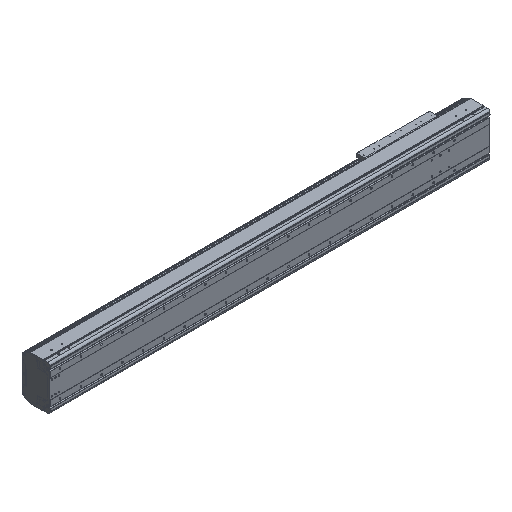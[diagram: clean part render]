
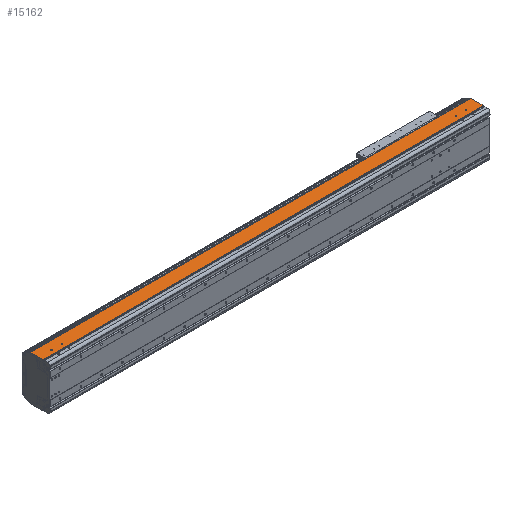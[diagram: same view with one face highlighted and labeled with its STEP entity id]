
A CAD part, isometric view. The second image highlights one B-rep face of the part: STEP entity #15162.
In plain terms, the highlighted planar face has unit normal (0, 0, 1).
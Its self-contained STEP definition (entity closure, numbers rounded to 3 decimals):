
#1832=DIRECTION('',(0.,-1.,0.));
#1833=VECTOR('',#1832,2.55);
#1834=CARTESIAN_POINT('',(0.,34.65,107.));
#1835=LINE('',#1834,#1833);
#2315=DIRECTION('',(1.,0.,0.));
#2316=VECTOR('',#2315,2.);
#2317=CARTESIAN_POINT('',(-2121.,34.65,107.));
#2318=LINE('',#2317,#2316);
#2319=CARTESIAN_POINT('',(-59.5,54.,107.));
#2320=DIRECTION('',(0.,0.,-1.));
#2321=DIRECTION('',(1.,0.,0.));
#2322=AXIS2_PLACEMENT_3D('',#2319,#2320,#2321);
#2324=CARTESIAN_POINT('',(-59.5,54.,107.));
#2325=DIRECTION('',(0.,0.,-1.));
#2326=DIRECTION('',(-1.,0.,0.));
#2327=AXIS2_PLACEMENT_3D('',#2324,#2325,#2326);
#2329=CARTESIAN_POINT('',(-109.5,54.,107.));
#2330=DIRECTION('',(0.,0.,-1.));
#2331=DIRECTION('',(1.,0.,0.));
#2332=AXIS2_PLACEMENT_3D('',#2329,#2330,#2331);
#2334=CARTESIAN_POINT('',(-109.5,54.,107.));
#2335=DIRECTION('',(0.,0.,-1.));
#2336=DIRECTION('',(-1.,0.,0.));
#2337=AXIS2_PLACEMENT_3D('',#2334,#2335,#2336);
#2339=CARTESIAN_POINT('',(-2059.5,54.,107.));
#2340=DIRECTION('',(0.,0.,-1.));
#2341=DIRECTION('',(1.,0.,0.));
#2342=AXIS2_PLACEMENT_3D('',#2339,#2340,#2341);
#2344=CARTESIAN_POINT('',(-2059.5,54.,107.));
#2345=DIRECTION('',(0.,0.,-1.));
#2346=DIRECTION('',(-1.,0.,0.));
#2347=AXIS2_PLACEMENT_3D('',#2344,#2345,#2346);
#2349=CARTESIAN_POINT('',(-2009.5,54.,107.));
#2350=DIRECTION('',(0.,0.,-1.));
#2351=DIRECTION('',(1.,0.,0.));
#2352=AXIS2_PLACEMENT_3D('',#2349,#2350,#2351);
#2354=CARTESIAN_POINT('',(-2009.5,54.,107.));
#2355=DIRECTION('',(0.,0.,-1.));
#2356=DIRECTION('',(-1.,0.,0.));
#2357=AXIS2_PLACEMENT_3D('',#2354,#2355,#2356);
#2359=DIRECTION('',(0.,-1.,0.));
#2360=VECTOR('',#2359,2.55);
#2361=CARTESIAN_POINT('',(-2119.,34.65,107.));
#2362=LINE('',#2361,#2360);
#2363=DIRECTION('',(0.,-1.,0.));
#2364=VECTOR('',#2363,58.85);
#2365=CARTESIAN_POINT('',(-2121.,93.5,107.));
#2366=LINE('',#2365,#2364);
#2367=DIRECTION('',(0.,1.,0.));
#2368=VECTOR('',#2367,58.85);
#2369=CARTESIAN_POINT('',(2.,34.65,107.));
#2370=LINE('',#2369,#2368);
#2371=DIRECTION('',(1.,0.,0.));
#2372=VECTOR('',#2371,2119.);
#2373=CARTESIAN_POINT('',(-2119.,32.1,107.));
#2374=LINE('',#2373,#2372);
#2479=DIRECTION('',(-1.,0.,0.));
#2480=VECTOR('',#2479,2123.);
#2481=CARTESIAN_POINT('',(2.,93.5,107.));
#2482=LINE('',#2481,#2480);
#8333=DIRECTION('',(1.,0.,0.));
#8334=VECTOR('',#8333,2.);
#8335=CARTESIAN_POINT('',(0.,34.65,107.));
#8336=LINE('',#8335,#8334);
#9489=CARTESIAN_POINT('',(-2121.,34.65,107.));
#9490=VERTEX_POINT('',#9489);
#9491=CARTESIAN_POINT('',(-2121.,93.5,107.));
#9492=VERTEX_POINT('',#9491);
#9721=CARTESIAN_POINT('',(-2119.,32.1,107.));
#9722=VERTEX_POINT('',#9721);
#10077=CARTESIAN_POINT('',(0.,32.1,107.));
#10078=VERTEX_POINT('',#10077);
#10079=CARTESIAN_POINT('',(-57.,54.,107.));
#10080=CARTESIAN_POINT('',(-62.,54.,107.));
#10081=VERTEX_POINT('',#10079);
#10082=VERTEX_POINT('',#10080);
#10083=CARTESIAN_POINT('',(-107.,54.,107.));
#10084=CARTESIAN_POINT('',(-112.,54.,107.));
#10085=VERTEX_POINT('',#10083);
#10086=VERTEX_POINT('',#10084);
#10087=CARTESIAN_POINT('',(-2057.,54.,107.));
#10088=CARTESIAN_POINT('',(-2062.,54.,107.));
#10089=VERTEX_POINT('',#10087);
#10090=VERTEX_POINT('',#10088);
#10091=CARTESIAN_POINT('',(-2007.,54.,107.));
#10092=CARTESIAN_POINT('',(-2012.,54.,107.));
#10093=VERTEX_POINT('',#10091);
#10094=VERTEX_POINT('',#10092);
#10986=CARTESIAN_POINT('',(2.,34.65,107.));
#10987=VERTEX_POINT('',#10986);
#10988=CARTESIAN_POINT('',(2.,93.5,107.));
#10989=VERTEX_POINT('',#10988);
#11440=CARTESIAN_POINT('',(0.,34.65,107.));
#11441=VERTEX_POINT('',#11440);
#11520=CARTESIAN_POINT('',(-2119.,34.65,107.));
#11521=VERTEX_POINT('',#11520);
#15120=CARTESIAN_POINT('',(-1059.5,62.8,107.));
#15121=DIRECTION('',(0.,0.,1.));
#15122=DIRECTION('',(0.,-1.,0.));
#15123=AXIS2_PLACEMENT_3D('',#15120,#15121,#15122);
#15124=PLANE('',#15123);
#15125=ORIENTED_EDGE('',*,*,#12606,.F.);
#15126=ORIENTED_EDGE('',*,*,#15115,.F.);
#15127=ORIENTED_EDGE('',*,*,#13235,.F.);
#15129=ORIENTED_EDGE('',*,*,#15128,.F.);
#15130=ORIENTED_EDGE('',*,*,#12343,.F.);
#15132=ORIENTED_EDGE('',*,*,#15131,.F.);
#15133=ORIENTED_EDGE('',*,*,#14723,.T.);
#15135=ORIENTED_EDGE('',*,*,#15134,.F.);
#15136=EDGE_LOOP('',(#15125,#15126,#15127,#15129,#15130,#15132,#15133,#15135));
#15137=FACE_OUTER_BOUND('',#15136,.F.);
#15139=ORIENTED_EDGE('',*,*,#15138,.F.);
#15141=ORIENTED_EDGE('',*,*,#15140,.F.);
#15142=EDGE_LOOP('',(#15139,#15141));
#15143=FACE_BOUND('',#15142,.F.);
#15145=ORIENTED_EDGE('',*,*,#15144,.F.);
#15147=ORIENTED_EDGE('',*,*,#15146,.F.);
#15148=EDGE_LOOP('',(#15145,#15147));
#15149=FACE_BOUND('',#15148,.F.);
#15151=ORIENTED_EDGE('',*,*,#15150,.F.);
#15153=ORIENTED_EDGE('',*,*,#15152,.F.);
#15154=EDGE_LOOP('',(#15151,#15153));
#15155=FACE_BOUND('',#15154,.F.);
#15157=ORIENTED_EDGE('',*,*,#15156,.F.);
#15159=ORIENTED_EDGE('',*,*,#15158,.F.);
#15160=EDGE_LOOP('',(#15157,#15159));
#15161=FACE_BOUND('',#15160,.F.);
#15162=ADVANCED_FACE('',(#15137,#15143,#15149,#15155,#15161),#15124,.T.);
#2323=CIRCLE('',#2322,2.5);
#2328=CIRCLE('',#2327,2.5);
#2333=CIRCLE('',#2332,2.5);
#2338=CIRCLE('',#2337,2.5);
#2343=CIRCLE('',#2342,2.5);
#2348=CIRCLE('',#2347,2.5);
#2353=CIRCLE('',#2352,2.5);
#2358=CIRCLE('',#2357,2.5);
#12343=EDGE_CURVE('',#10987,#10989,#2370,.T.);
#12606=EDGE_CURVE('',#11521,#9722,#2362,.T.);
#13235=EDGE_CURVE('',#9492,#9490,#2366,.T.);
#14723=EDGE_CURVE('',#11441,#10078,#1835,.T.);
#15115=EDGE_CURVE('',#9490,#11521,#2318,.T.);
#15128=EDGE_CURVE('',#10989,#9492,#2482,.T.);
#15131=EDGE_CURVE('',#11441,#10987,#8336,.T.);
#15134=EDGE_CURVE('',#9722,#10078,#2374,.T.);
#15138=EDGE_CURVE('',#10085,#10086,#2333,.T.);
#15140=EDGE_CURVE('',#10086,#10085,#2338,.T.);
#15144=EDGE_CURVE('',#10089,#10090,#2343,.T.);
#15146=EDGE_CURVE('',#10090,#10089,#2348,.T.);
#15150=EDGE_CURVE('',#10093,#10094,#2353,.T.);
#15152=EDGE_CURVE('',#10094,#10093,#2358,.T.);
#15156=EDGE_CURVE('',#10081,#10082,#2323,.T.);
#15158=EDGE_CURVE('',#10082,#10081,#2328,.T.);
